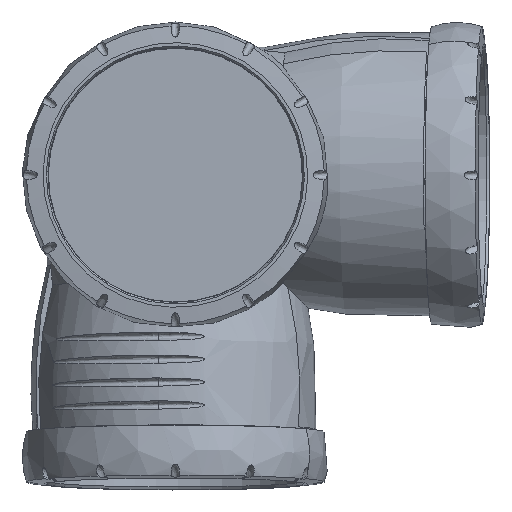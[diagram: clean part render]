
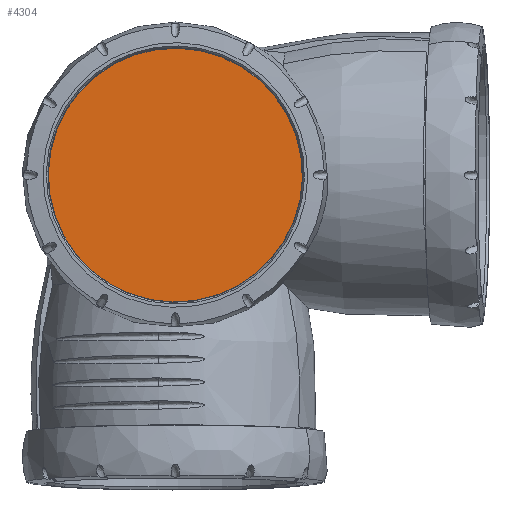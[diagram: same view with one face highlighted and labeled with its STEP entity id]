
A CAD part, top view. The second image highlights one B-rep face of the part: STEP entity #4304.
In plain terms, the highlighted planar face has unit normal (0, 0, 1).
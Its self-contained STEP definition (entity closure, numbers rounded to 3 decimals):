
#732=PLANE('',#4619);
#1011=FACE_OUTER_BOUND('',#1290,.T.);
#1290=EDGE_LOOP('',(#3806,#3807));
#1471=CIRCLE('',#4614,45.863);
#1472=CIRCLE('',#4616,45.863);
#1904=VERTEX_POINT('',#14772);
#1905=VERTEX_POINT('',#14774);
#2537=EDGE_CURVE('',#1905,#1904,#1471,.T.);
#2539=EDGE_CURVE('',#1904,#1905,#1472,.T.);
#3806=ORIENTED_EDGE('',*,*,#2539,.T.);
#3807=ORIENTED_EDGE('',*,*,#2537,.T.);
#4304=ADVANCED_FACE('',(#1011),#732,.T.);
#4614=AXIS2_PLACEMENT_3D('',#14775,#5274,#5275);
#4616=AXIS2_PLACEMENT_3D('',#14778,#5279,#5280);
#4619=AXIS2_PLACEMENT_3D('',#14781,#5285,#5286);
#5274=DIRECTION('center_axis',(0.,0.,
1.));
#5275=DIRECTION('ref_axis',(0.878,0.479,0.));
#5279=DIRECTION('center_axis',(0.,0.,
1.));
#5280=DIRECTION('ref_axis',(-0.878,-0.479,0.));
#5285=DIRECTION('center_axis',(0.,0.,
1.));
#5286=DIRECTION('ref_axis',(0.,-1.,0.));
#14772=CARTESIAN_POINT('',(40.248,21.988,165.31));
#14774=CARTESIAN_POINT('',(-40.248,-21.988,165.31));
#14775=CARTESIAN_POINT('Origin',(0.,0.001,
165.31));
#14778=CARTESIAN_POINT('Origin',(0.,-0.001,
165.31));
#14781=CARTESIAN_POINT('Origin',(-46.632,46.158,165.31));
